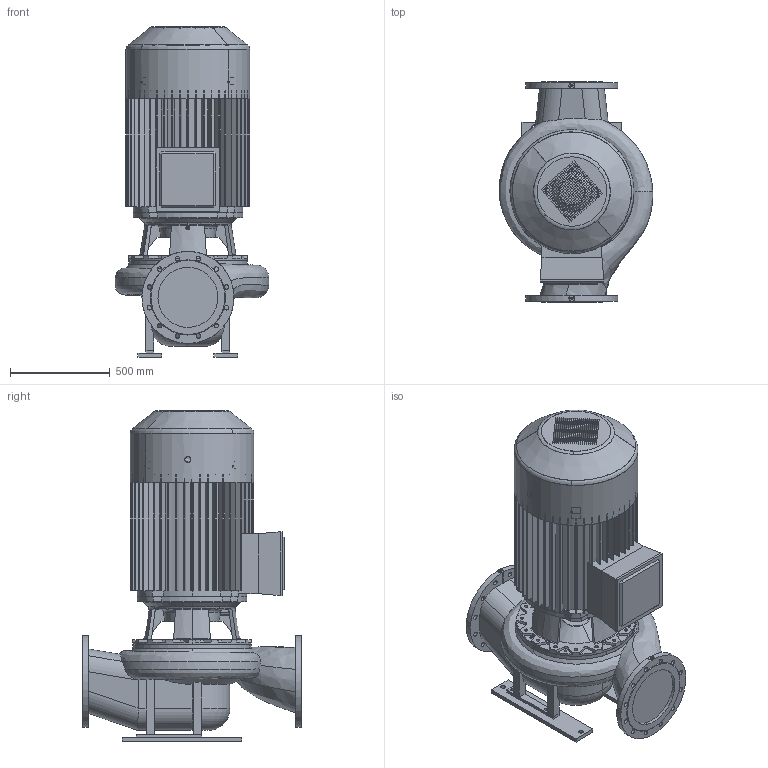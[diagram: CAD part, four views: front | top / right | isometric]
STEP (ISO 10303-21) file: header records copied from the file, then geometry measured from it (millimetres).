
FILE_DESCRIPTION(('STEP AP214'),'1');
FILE_NAME('export.stp','2018-05-28T11:26:05',(' '),(' '),'Spatial InterOp 3D',' ',' ');
FILE_SCHEMA(('AUTOMOTIVE_DESIGN { 1 0 10303 214 1 1 1 1 }'));
Length unit declared in the file: millimetre
Products named in the file (9): W_AL130041100KPR; V_TLAL1300; V_PPAL1300; V_JALKA35557; V_MKZ314F53; R200796; R200071; R200681; R200076
Assembly tree (9 placements, depth 3):
  W_AL130041100KPR
    V_TLAL1300
    V_PPAL1300
    V_JALKA35557  x2
    V_MKZ314F53
      R200796
      R200071
      R200681
      R200076
Bounding box: 769.52 x 1100 x 1654.5 mm (x, y, z)
Volume: 192907135.2 mm3; surface area: 12253272.8 mm2
Topology: 8 solids, 10 shells, 3264 faces, 9536 edges, 6323 vertices
Faces by surface type: plane 2501, cylinder 557, cone 97, torus 58, bspline 51
Entity records: 156202 total; most frequent: CARTESIAN_POINT 27899, ORIENTED_EDGE 18928, DIRECTION 17111, EDGE_CURVE 9464, LINE 7525, VECTOR 7525, VERTEX_POINT 6283, STYLED_ITEM 5890
